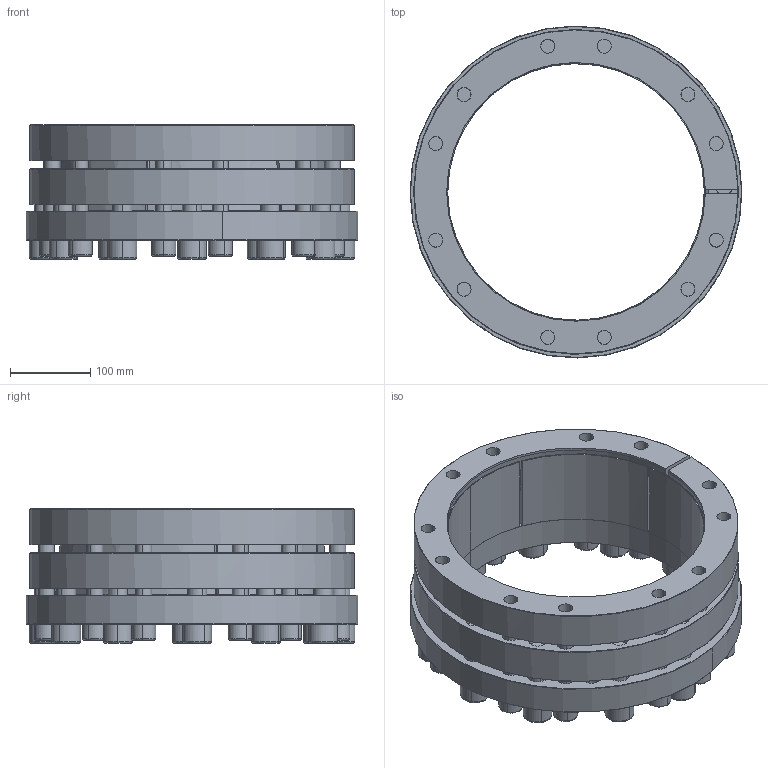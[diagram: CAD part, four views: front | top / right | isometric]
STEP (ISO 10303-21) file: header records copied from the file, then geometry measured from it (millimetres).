
FILE_DESCRIPTION (( 'STEP AP214' ), '1' );
FILE_NAME ('CONEX-P-320x405-P-010.step', '2015-11-30T21:14:23', ( '' ), ( '' ), 'SwSTEP 2.0', 'SolidWorks 2013', '' );
FILE_SCHEMA (( 'AUTOMOTIVE_DESIGN' ));
Length unit declared in the file: millimetre
Products named in the file (1): CONEX-P-320x405-P-010
Bounding box: 413.98 x 413.98 x 168.01 mm (x, y, z)
Volume: 6699551.4 mm3; surface area: 1181045.3 mm2
Topology: 27 solids, 27 shells, 863 faces, 2006 edges, 1198 vertices
Faces by surface type: plane 397, cylinder 238, cone 130, torus 98
Entity records: 34253 total; most frequent: DIRECTION 4562, CARTESIAN_POINT 4208, ORIENTED_EDGE 3916, EDGE_CURVE 1958, AXIS2_PLACEMENT_3D 1792, VERTEX_POINT 1198, EDGE_LOOP 1044, VECTOR 978
